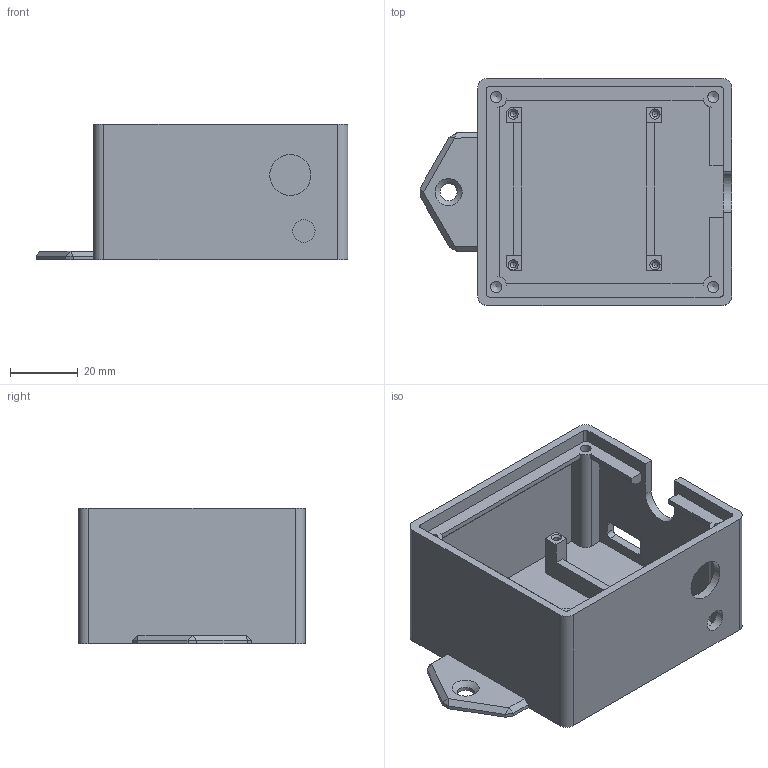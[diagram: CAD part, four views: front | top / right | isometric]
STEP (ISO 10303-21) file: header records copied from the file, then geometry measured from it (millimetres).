
FILE_DESCRIPTION(('STEP AP242 Edition 2','STEP AP242 Edition 2''CAx-IF Rec.Pracs.---Representation and Presentation of Product Manufacturing Information (PMI)---4.0---2014-10-13','STEP AP242 Edition 2''CAx-IF Rec.Pracs.---Representation and Presentation of Product Manufacturing Information (PMI)---4.0---2014-10-13''CAx-IF Rec.Pracs.---3D Tessellated Geometry---0.4---2014-09-14','STEP AP242 Edition 2''CAx-IF Rec.Pracs.---Representation and Presentation of Product Manufacturing Information (PMI)---4.0---2014-10-13''CAx-IF Rec.Pracs.---3D Tessellated Geometry---0.4---2014-09-14''2;1','STEP AP242 Edition 2''CAx-IF Rec.Pracs.---Representation and Presentation of Product Manufacturing Information (PMI)---4.0---2014-10-13''CAx-IF Rec.Pracs.---3D Tessellated Geometry---0.4---2014-09-14''2;1''CAx-IF Rec.Pracs.---User Defined Attributes---1.5---2016-08-15'),'2;1');
FILE_NAME('/vol/tmp/translate-26829232647236393/Part Studio 1 - Box.step','2026-04-25T00:12:13',(''),(''),'ST-DEVELOPER v20','ONSHAPE BY PTC INC, 1.214',' ');
FILE_SCHEMA(('AP242_MANAGED_MODEL_BASED_3D_ENGINEERING_MIM_LF { 1 0 10303 442 3 1 4 }'));
Length unit declared in the file: metre
Products named in the file (1): Box
Bounding box: 91.96 x 67 x 40 mm (x, y, z)
Volume: 46555.4 mm3; surface area: 34941.2 mm2
Topology: 1 solids, 1 shells, 134 faces, 368 edges, 238 vertices
Faces by surface type: plane 93, cylinder 28, cone 13
Full cylindrical faces by diameter (mm): 1.75 x4, 3.3 x4, 5 x1, 6.6 x1, 12.1 x1
Entity records: 4183 total; most frequent: CARTESIAN_POINT 699, DIRECTION 671, ORIENTED_EDGE 656, EDGE_CURVE 328, LINE 267, VECTOR 267, VERTEX_POINT 230, AXIS2_PLACEMENT_3D 202
